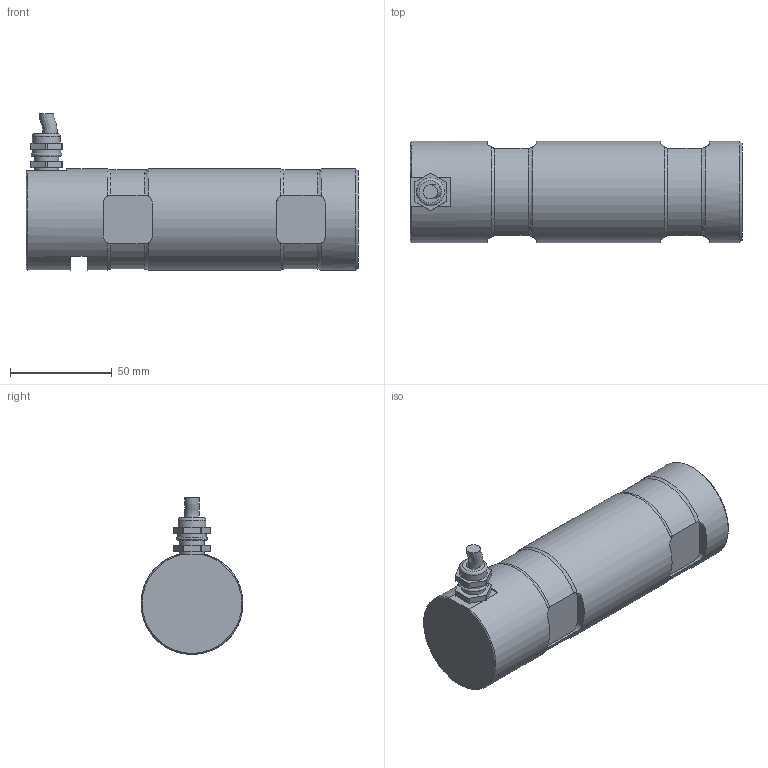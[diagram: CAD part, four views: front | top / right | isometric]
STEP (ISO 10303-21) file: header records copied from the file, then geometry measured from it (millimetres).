
FILE_DESCRIPTION(/* description */ ('Alibre Inc.'),/* implementation_level */ '2;1');
FILE_NAME(/* name */ 'export0',/* time_stamp */ '2011-09-16T15:16:44+02:00',/* author */ (''),/* organization */ (''),/* preprocessor_version */ 'ST-DEVELOPER v10',/* originating_system */ 'Alibre',/* authorisation */ '');
FILE_SCHEMA (('ALIBRE_SCHEMA','CONFIG_CONTROL_DESIGN'));
Length unit declared in the file: centimetre
Products named in the file (6): ID_1
Bounding box: 163 x 50 x 77 mm (x, y, z)
Volume: 309571 mm3; surface area: 33993.7 mm2
Topology: 4 solids, 4 shells, 107 faces, 271 edges, 178 vertices
Faces by surface type: plane 50, cylinder 43, torus 10, cone 3, bspline 1
Full cylindrical faces by diameter (mm): 7 x2, 7.4 x1, 10.376 x1, 12 x2, 13.7 x1, 14 x1, 50 x3
Entity records: 12399 total; most frequent: CARTESIAN_POINT 2641, PERSISTANTTOPOLOGYATTRIBUTE 914, DIRECTION 680, REFERENCEDEPENDENTUV 547, ORIENTED_EDGE 506, CONSTRAINTPAIRUV 504, VECTOR 362, REFERENCEPOINTUV 294
